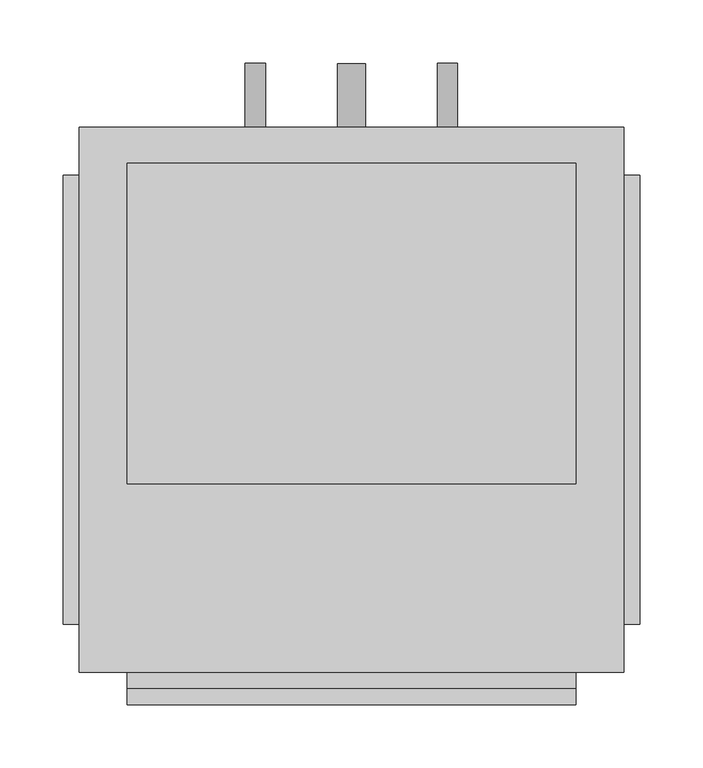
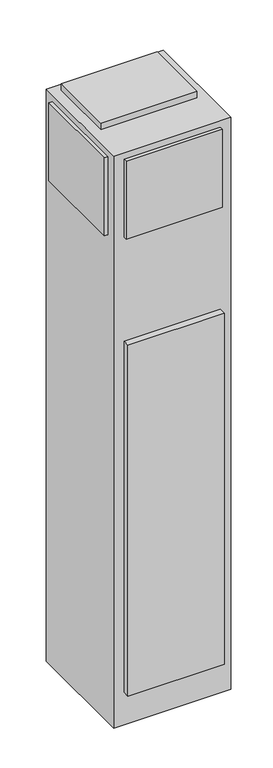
"""IFC4 building model written with IfcOpenShell, lengths in millimetres: proxy geometry, Concealed_Universal_Modular_Fan_Coil_Unit_-_42SUB_-_CARRIER_-_2-Pipe_Cool-EHeat_-_NoRisers_2022 : Size 03 - 277v/60Hz/1Ph - 4 Row 3.0kW."""

import ifcopenshell
import ifcopenshell.guid

model = None  # the IFC model being written
_history = None  # IfcOwnerHistory: only IFC2X3 demands one
_inside = {}  # id of a spatial element -> (the spatial element, [elements in it])
_under = {}  # id of a project, library or spatial element -> (it, [spatial elements below it])
_declared = {}  # id of a project -> (the project, [libraries it declares])
_typed = {}  # id of a type object -> (the type object, [elements of that type])
_made_of = {}  # id of a material, layer set ... -> (it, [elements and type objects made of it])


def new_model(schema):
    """Start an empty IFC model of exactly this schema.

    Asked for "IFC4X3", IfcOpenShell would pick the latest addendum, in which some entities
    have other attributes; the version numbers below select the first issue.
    IFC2X3 requires an IfcOwnerHistory on every rooted entity: one is made here for all.
    """
    global model, _history
    if schema == "IFC4X3":
        model = ifcopenshell.file(schema_version=(4, 3, 0, 0))
    else:
        model = ifcopenshell.file(schema=schema)
    _inside.clear()
    _under.clear()
    _declared.clear()
    _typed.clear()
    _made_of.clear()
    _history = None
    if model.schema == "IFC2X3":
        org = make("IfcOrganization", Name="unknown")
        user = make(
            "IfcPersonAndOrganization",
            ThePerson=make("IfcPerson", FamilyName="unknown"),
            TheOrganization=org,
        )
        app = make(
            "IfcApplication",
            ApplicationDeveloper=org,
            Version="unknown",
            ApplicationFullName="unknown",
            ApplicationIdentifier="unknown",
        )
        _history = make(
            "IfcOwnerHistory",
            OwningUser=user,
            OwningApplication=app,
            ChangeAction="ADDED",
            CreationDate=0,
        )
    return model


def make(cls, **values):
    """One entity of the class cls with the attributes given. An attribute that is None is left unset."""
    return model.create_entity(
        cls, **{name: value for name, value in values.items() if value is not None}
    )


def rooted(cls, **values):
    """An entity with a GlobalId (a new one), such as an element, a storey or a relation."""
    return make(cls, GlobalId=ifcopenshell.guid.new(), OwnerHistory=_history, **values)


def si_unit(unit_type, name, prefix=None):
    """IfcSIUnit, for example si_unit("LENGTHUNIT", "METRE", prefix="MILLI")."""
    return make("IfcSIUnit", UnitType=unit_type, Prefix=prefix, Name=name)


def assignment(units):
    """IfcUnitAssignment: the units of a project."""
    return None if units is None else make("IfcUnitAssignment", Units=units)


def point(xyz):
    """IfcCartesianPoint."""
    return None if xyz is None else make("IfcCartesianPoint", Coordinates=xyz)


def direction(xyz):
    """IfcDirection."""
    return None if xyz is None else make("IfcDirection", DirectionRatios=xyz)


def frame(location, z_axis=None, x_axis=None):
    """IfcAxis2Placement3D, a coordinate frame: its origin and axes. An axis left out is left unset."""
    return make(
        "IfcAxis2Placement3D",
        Location=point(location),
        Axis=direction(z_axis),
        RefDirection=direction(x_axis),
    )


def frame_2d(location, x_axis=None):
    """IfcAxis2Placement2D, a coordinate frame in the plane: its origin and x axis."""
    return make(
        "IfcAxis2Placement2D", Location=point(location), RefDirection=direction(x_axis)
    )


def origin():
    """The frame at (0, 0, 0) with its axes left unset."""
    return frame((0.0, 0.0, 0.0))


def origin_with_axes():
    """The frame at (0, 0, 0) with the z axis (0, 0, 1) and the x axis (1, 0, 0) written out."""
    return frame((0.0, 0.0, 0.0), z_axis=(0.0, 0.0, 1.0), x_axis=(1.0, 0.0, 0.0))


def place(relative_to, where):
    """IfcLocalPlacement: puts the frame where relative to a parent placement (None: the world)."""
    return make(
        "IfcLocalPlacement", PlacementRelTo=relative_to, RelativePlacement=where
    )


def context(
    kind, dimensions, precision=None, world=None, true_north=None, identifier=None
):
    """IfcGeometricRepresentationContext, for example the 3D "Model" context."""
    return make(
        "IfcGeometricRepresentationContext",
        ContextIdentifier=identifier,
        ContextType=kind,
        CoordinateSpaceDimension=dimensions,
        Precision=precision,
        WorldCoordinateSystem=world,
        TrueNorth=true_north,
    )


def project(units=None, contexts=None):
    """IfcProject with its units and contexts."""
    return rooted(
        "IfcProject",
        Name="project",
        RepresentationContexts=contexts,
        UnitsInContext=assignment(units),
    )


def spatial(cls, under=None, at=None, **own):
    """A site, building, storey or space (cls), placed at a placement, below another one or the project."""
    s = rooted(cls, ObjectPlacement=at, **own)
    if under is not None:
        _under.setdefault(under.id(), (under, []))[1].append(s)
    return s


def polyline(points):
    """IfcPolyline through the points."""
    return make("IfcPolyline", Points=[point(p) for p in points])


def circle_curve(where, radius):
    """IfcCircle in the frame where."""
    return make("IfcCircle", Position=where, Radius=radius)


def trimmed(basis, trim1, trim2, sense, master):
    """IfcTrimmedCurve: the piece of a basis curve between two trims."""
    return make(
        "IfcTrimmedCurve",
        BasisCurve=basis,
        Trim1=trim1,
        Trim2=trim2,
        SenseAgreement=sense,
        MasterRepresentation=master,
    )


def segment(curve, same_sense, transition):
    """IfcCompositeCurveSegment."""
    return make(
        "IfcCompositeCurveSegment",
        Transition=transition,
        SameSense=same_sense,
        ParentCurve=curve,
    )


def composite_curve(segments, self_intersect=None):
    """IfcCompositeCurve: segments joined end to end."""
    return make("IfcCompositeCurve", Segments=segments, SelfIntersect=self_intersect)


def outline(outer, holes=None, kind="AREA"):
    """IfcArbitraryClosedProfileDef: a profile drawn as a closed curve; with holes, ...WithVoids."""
    if holes is None:
        return make("IfcArbitraryClosedProfileDef", ProfileType=kind, OuterCurve=outer)
    return make(
        "IfcArbitraryProfileDefWithVoids",
        ProfileType=kind,
        OuterCurve=outer,
        InnerCurves=holes,
    )


def extrude(swept, where, along, depth):
    """IfcExtrudedAreaSolid: the profile swept, set in the frame where, extruded along a direction by depth."""
    return make(
        "IfcExtrudedAreaSolid",
        SweptArea=swept,
        Position=where,
        ExtrudedDirection=direction(along),
        Depth=depth,
    )


def shape(context_of_items, identifier, shape_type, items):
    """IfcShapeRepresentation: the items that make up one representation, for example the "Body"."""
    return make(
        "IfcShapeRepresentation",
        ContextOfItems=context_of_items,
        RepresentationIdentifier=identifier,
        RepresentationType=shape_type,
        Items=items,
    )


def source(mapping_origin, context_of_items, identifier, shape_type, items):
    """IfcRepresentationMap: a shape defined once, which mapped items show again and again."""
    return make(
        "IfcRepresentationMap",
        MappingOrigin=mapping_origin,
        MappedRepresentation=shape(context_of_items, identifier, shape_type, items),
    )


def transform(
    local_origin,
    x_axis=None,
    y_axis=None,
    z_axis=None,
    scale=None,
    scale2=None,
    scale3=None,
    uniform=True,
):
    """IfcCartesianTransformationOperator3D, or its non-uniform kind. x_axis, y_axis, z_axis: its Axis1, 2, 3."""
    if uniform:
        return make(
            "IfcCartesianTransformationOperator3D",
            Axis1=direction(x_axis),
            Axis2=direction(y_axis),
            LocalOrigin=point(local_origin),
            Scale=scale,
            Axis3=direction(z_axis),
        )
    return make(
        "IfcCartesianTransformationOperator3DnonUniform",
        Axis1=direction(x_axis),
        Axis2=direction(y_axis),
        LocalOrigin=point(local_origin),
        Scale=scale,
        Axis3=direction(z_axis),
        Scale2=scale2,
        Scale3=scale3,
    )


def mapped(mapping_source, mapping_target):
    """IfcMappedItem: shows the shape of a source again, moved by a transform."""
    return make(
        "IfcMappedItem", MappingSource=mapping_source, MappingTarget=mapping_target
    )


def made_of(thing, what):
    """Note that an element or type object is made of a material, layer set ...; save() writes the relation."""
    if what is not None:
        _made_of.setdefault(what.id(), (what, []))[1].append(thing)
    return thing


def element(
    cls,
    number,
    at=None,
    inside=None,
    cuts=None,
    type_object=None,
    material=None,
    context=None,
    identifier="Body",
    shape_type=None,
    held_by="IfcProductDefinitionShape",
    body=None,
    shapes=None,
    **own,
):
    """One element of the class cls, such as IfcWall. Its Tag is "e" and its number.

    at: its placement. inside: the storey or other place that contains it. cuts: it is an
    opening in that element (IfcRelVoidsElement). A single representation is given by context,
    identifier, shape_type and body (its items); several are given by shapes. held_by: the class
    of the entity that holds the representations. save() writes the other relations.
    """
    e = rooted(cls, Tag="e%d" % number, ObjectPlacement=at, **own)
    if body is not None:
        shapes = [shape(context, identifier, shape_type, body)]
    if shapes is not None:
        e.Representation = make(held_by, Representations=shapes)
    if inside is not None:
        _inside.setdefault(inside.id(), (inside, []))[1].append(e)
    if cuts is not None:
        rooted(
            "IfcRelVoidsElement", RelatingBuildingElement=cuts, RelatedOpeningElement=e
        )
    if type_object is not None:
        _typed.setdefault(type_object.id(), (type_object, []))[1].append(e)
    return made_of(e, material)


def aggregate(whole, parts):
    """IfcRelAggregates: a whole, such as a stair, and the parts it consists of."""
    return rooted("IfcRelAggregates", RelatingObject=whole, RelatedObjects=parts)


def save(model, path):
    """Write the relations noted so far, then the file.

    IfcRelAggregates (storeys below a building ...), IfcRelContainedInSpatialStructure (elements
    in a storey), IfcRelDefinesByType, IfcRelAssociatesMaterial and IfcRelDeclares: one each for
    every whole, place, type object, material and project.
    """
    for whole, parts in _under.values():
        aggregate(whole, parts)
    for where, things in _inside.values():
        rooted(
            "IfcRelContainedInSpatialStructure",
            RelatedElements=things,
            RelatingStructure=where,
        )
    for kind, things in _typed.values():
        rooted("IfcRelDefinesByType", RelatedObjects=things, RelatingType=kind)
    for what, things in _made_of.values():
        rooted("IfcRelAssociatesMaterial", RelatedObjects=things, RelatingMaterial=what)
    for by, libraries in _declared.values():
        rooted("IfcRelDeclares", RelatingContext=by, RelatedDefinitions=libraries)
    model.write(path)


def mechanical_equipment_94ad796c(model_context):
    return source(origin(), model_context, "Body", "SweptSolid", [
        extrude(outline(composite_curve([segment(trimmed(circle_curve(frame_2d((990.6, 444.5)), 7.9375), [point((990.6, 436.5625))], [point((990.6, 452.4375))], False, "CARTESIAN"), True, "CONTINUOUS"), segment(trimmed(circle_curve(frame_2d((990.6, 444.5)), 7.9375), [point((990.6, 452.4375))], [point((990.6, 436.5625))], False, "CARTESIAN"), True, "CONTINUOUS")], self_intersect=False)), frame((0.0, 244.475, 0.0), z_axis=(0.0, 1.0, 0.0), x_axis=(0.0, 0.0, 1.0)), (0.0, 0.0, 1.0), 50.8),
        extrude(outline(composite_curve([segment(trimmed(circle_curve(frame_2d((990.6, 292.1)), 7.9375), [point((990.6, 284.1625))], [point((990.6, 300.0375))], False, "CARTESIAN"), True, "CONTINUOUS"), segment(trimmed(circle_curve(frame_2d((990.6, 292.1)), 7.9375), [point((990.6, 300.0375))], [point((990.6, 284.1625))], False, "CARTESIAN"), True, "CONTINUOUS")], self_intersect=False)), frame((0.0, 244.475, 0.0), z_axis=(0.0, 1.0, 0.0), x_axis=(0.0, 0.0, 1.0)), (0.0, 0.0, 1.0), 50.8),
        extrude(outline(composite_curve([segment(trimmed(circle_curve(frame_2d((76.2, 368.3)), 11.1125), [point((76.2, 357.1875))], [point((76.2, 379.4125))], False, "CARTESIAN"), True, "CONTINUOUS"), segment(trimmed(circle_curve(frame_2d((76.2, 368.3)), 11.1125), [point((76.2, 379.4125))], [point((76.2, 357.1875))], False, "CARTESIAN"), True, "CONTINUOUS")], self_intersect=False)), frame((0.0, 244.475, 0.0), z_axis=(0.0, 1.0, 0.0), x_axis=(0.0, 0.0, 1.0)), (0.0, 0.0, 1.0), 50.8),
        extrude(outline(polyline([(546.1, 215.9), (546.1, -38.1), (190.5, -38.1), (190.5, 215.9), (546.1, 215.9)])), frame((0.0, 0.0, 2235.2), z_axis=(0.0, 0.0, 1.0), x_axis=(1.0, 0.0, 0.0)), (0.0, 0.0, 1.0), 25.4),
        extrude(outline(polyline([(139.7, -149.225), (139.7, 206.375), (152.4, 206.375), (152.4, -149.225), (139.7, -149.225)])), frame((0.0, 0.0, 1905.0), z_axis=(0.0, 0.0, 1.0), x_axis=(1.0, 0.0, 0.0)), (0.0, 0.0, 1.0), 304.8),
        extrude(outline(polyline([(596.9, 206.375), (596.9, -149.225), (584.2, -149.225), (584.2, 206.375), (596.9, 206.375)])), frame((0.0, 0.0, 1905.0), z_axis=(0.0, 0.0, 1.0), x_axis=(1.0, 0.0, 0.0)), (0.0, 0.0, 1.0), 304.8),
        extrude(outline(polyline([(546.1, -200.025), (190.5, -200.025), (190.5, -187.325), (546.1, -187.325), (546.1, -200.025)])), frame((0.0, 0.0, 1905.0), z_axis=(0.0, 0.0, 1.0), x_axis=(1.0, 0.0, 0.0)), (0.0, 0.0, 1.0), 304.8),
        extrude(outline(polyline([(546.1, -212.725), (190.5, -212.725), (190.5, -187.325), (546.1, -187.325), (546.1, -212.725)])), frame((0.0, 0.0, 127.0), z_axis=(0.0, 0.0, 1.0), x_axis=(1.0, 0.0, 0.0)), (0.0, 0.0, 1.0), 1371.6),
        extrude(outline(polyline([(584.2, 244.475), (584.2, -187.325), (152.4, -187.325), (152.4, 244.475), (584.2, 244.475)])), origin_with_axes(), (0.0, 0.0, 1.0), 2235.2),
    ])


if __name__ == "__main__":
    model = new_model("IFC4")
    model_context = context("Model", 3, world=origin())
    ifc_project = project(units=[si_unit("LENGTHUNIT", "METRE", prefix="MILLI")], contexts=[model_context])
    site = spatial("IfcSite", under=ifc_project)
    building = spatial("IfcBuilding", under=site)
    placement = place(None, origin())
    mechanical_equipment_shape = mechanical_equipment_94ad796c(model_context)
    element("IfcBuildingElementProxy", 1, Name="Concealed_Universal_Modular_Fan_Coil_Unit_-_42SUB_-_CARRIER_-_2-Pipe_Cool-EHeat_-_NoRisers_2022 : Size 03 - 277v/60Hz/1Ph - 4 Row 3.0kW", ObjectType="Concealed_Universal_Modular_Fan_Coil_Unit_-_42SUB_-_CARRIER_-_2-Pipe_Cool-EHeat_-_NoRisers_2022 : Size 03 - 277v/60Hz/1Ph - 4 Row 3.0kW", at=placement, inside=building, context=model_context, shape_type="MappedRepresentation", body=[
        mapped(mechanical_equipment_shape, transform((0.0, 0.0, 0.0), x_axis=(1.0, 0.0, 0.0), y_axis=(0.0, 1.0, 0.0), z_axis=(0.0, 0.0, 1.0))),
    ])
    save(model, "model.ifc")
